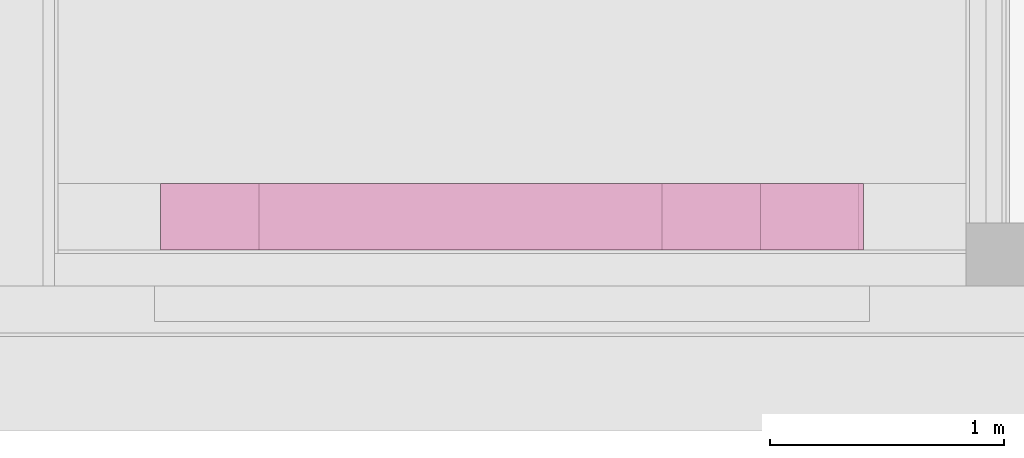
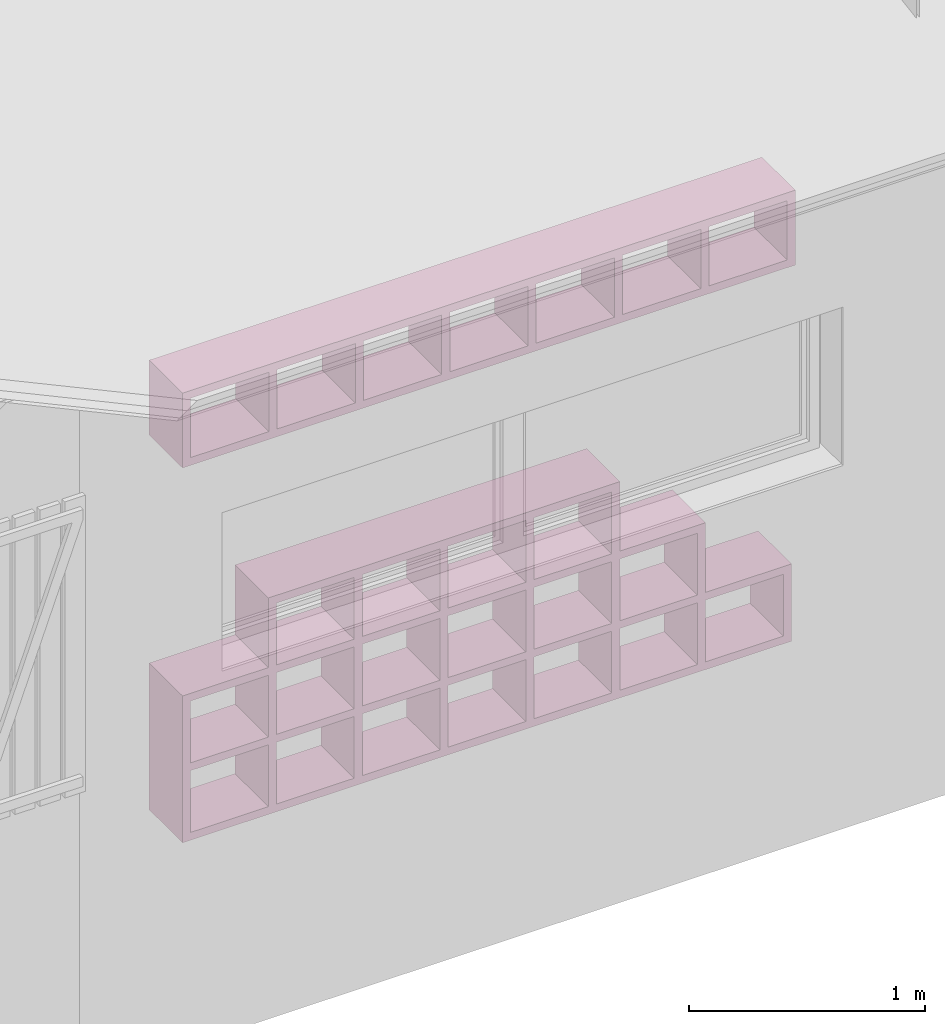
# One storey, part 20 of 24: 2 furnishings.
"""IFC2X3 building model written with IfcOpenShell, lengths in metres."""

import ifcopenshell
import ifcopenshell.guid

model = None  # the IFC model being written
_history = None  # IfcOwnerHistory: only IFC2X3 demands one
_inside = {}  # id of a spatial element -> (the spatial element, [elements in it])
_under = {}  # id of a project, library or spatial element -> (it, [spatial elements below it])
_declared = {}  # id of a project -> (the project, [libraries it declares])
_typed = {}  # id of a type object -> (the type object, [elements of that type])
_made_of = {}  # id of a material, layer set ... -> (it, [elements and type objects made of it])


def new_model(schema):
    """Start an empty IFC model of exactly this schema.

    Asked for "IFC4X3", IfcOpenShell would pick the latest addendum, in which some entities
    have other attributes; the version numbers below select the first issue.
    IFC2X3 requires an IfcOwnerHistory on every rooted entity: one is made here for all.
    """
    global model, _history
    if schema == "IFC4X3":
        model = ifcopenshell.file(schema_version=(4, 3, 0, 0))
    else:
        model = ifcopenshell.file(schema=schema)
    _inside.clear()
    _under.clear()
    _declared.clear()
    _typed.clear()
    _made_of.clear()
    _history = None
    if model.schema == "IFC2X3":
        org = make("IfcOrganization", Name="unknown")
        user = make(
            "IfcPersonAndOrganization",
            ThePerson=make("IfcPerson", FamilyName="unknown"),
            TheOrganization=org,
        )
        app = make(
            "IfcApplication",
            ApplicationDeveloper=org,
            Version="unknown",
            ApplicationFullName="unknown",
            ApplicationIdentifier="unknown",
        )
        _history = make(
            "IfcOwnerHistory",
            OwningUser=user,
            OwningApplication=app,
            ChangeAction="ADDED",
            CreationDate=0,
        )
    return model


def make(cls, **values):
    """One entity of the class cls with the attributes given. An attribute that is None is left unset."""
    return model.create_entity(
        cls, **{name: value for name, value in values.items() if value is not None}
    )


def entity(cls, *values):
    """Any entity or typed value of the class cls, its attributes in the order of the schema. None: left unset."""
    e = model.create_entity(cls)
    for i, value in enumerate(values):
        if value is not None:
            e[i] = value
    return e


def rooted(cls, **values):
    """An entity with a GlobalId (a new one), such as an element, a storey or a relation."""
    return make(cls, GlobalId=ifcopenshell.guid.new(), OwnerHistory=_history, **values)


def si_unit(unit_type, name, prefix=None):
    """IfcSIUnit, for example si_unit("LENGTHUNIT", "METRE", prefix="MILLI")."""
    return make("IfcSIUnit", UnitType=unit_type, Prefix=prefix, Name=name)


def converted_unit(unit_type, name, factor, base, dimensions=None, offset=None):
    """IfcConversionBasedUnit, such as the inch: factor (a typed value) times the base unit."""
    return make(
        "IfcConversionBasedUnit"
        if offset is None
        else "IfcConversionBasedUnitWithOffset",
        ConversionOffset=offset,
        Dimensions=None
        if dimensions is None
        else entity("IfcDimensionalExponents", *dimensions),
        UnitType=unit_type,
        Name=name,
        ConversionFactor=make(
            "IfcMeasureWithUnit", ValueComponent=factor, UnitComponent=base
        ),
    )


def derived_unit(unit_type, elements):
    """IfcDerivedUnit: a product of units, each with its exponent."""
    return make(
        "IfcDerivedUnit",
        Elements=[
            make("IfcDerivedUnitElement", Unit=unit, Exponent=power)
            for unit, power in elements
        ],
        UnitType=unit_type,
    )


def money_unit(currency):
    """IfcMonetaryUnit."""
    return make("IfcMonetaryUnit", Currency=currency)


def assignment(units):
    """IfcUnitAssignment: the units of a project."""
    return None if units is None else make("IfcUnitAssignment", Units=units)


def point(xyz):
    """IfcCartesianPoint."""
    return None if xyz is None else make("IfcCartesianPoint", Coordinates=xyz)


def direction(xyz):
    """IfcDirection."""
    return None if xyz is None else make("IfcDirection", DirectionRatios=xyz)


def frame(location, z_axis=None, x_axis=None):
    """IfcAxis2Placement3D, a coordinate frame: its origin and axes. An axis left out is left unset."""
    return make(
        "IfcAxis2Placement3D",
        Location=point(location),
        Axis=direction(z_axis),
        RefDirection=direction(x_axis),
    )


def origin_with_axes():
    """The frame at (0, 0, 0) with the z axis (0, 0, 1) and the x axis (1, 0, 0) written out."""
    return frame((0.0, 0.0, 0.0), z_axis=(0.0, 0.0, 1.0), x_axis=(1.0, 0.0, 0.0))


def place(relative_to, where):
    """IfcLocalPlacement: puts the frame where relative to a parent placement (None: the world)."""
    return make(
        "IfcLocalPlacement", PlacementRelTo=relative_to, RelativePlacement=where
    )


def context(
    kind, dimensions, precision=None, world=None, true_north=None, identifier=None
):
    """IfcGeometricRepresentationContext, for example the 3D "Model" context."""
    return make(
        "IfcGeometricRepresentationContext",
        ContextIdentifier=identifier,
        ContextType=kind,
        CoordinateSpaceDimension=dimensions,
        Precision=precision,
        WorldCoordinateSystem=world,
        TrueNorth=true_north,
    )


def subcontext(parent, identifier, kind, view, scale=None):
    """IfcGeometricRepresentationSubContext, for example "Body" below "Model"."""
    return make(
        "IfcGeometricRepresentationSubContext",
        ContextIdentifier=identifier,
        ContextType=kind,
        ParentContext=parent,
        TargetScale=scale,
        TargetView=view,
    )


def project(units=None, contexts=None):
    """IfcProject with its units and contexts."""
    return rooted(
        "IfcProject",
        Name="project",
        RepresentationContexts=contexts,
        UnitsInContext=assignment(units),
    )


def spatial(cls, under=None, at=None, **own):
    """A site, building, storey or space (cls), placed at a placement, below another one or the project."""
    s = rooted(cls, ObjectPlacement=at, **own)
    if under is not None:
        _under.setdefault(under.id(), (under, []))[1].append(s)
    return s


def faces_of(points, faces, orient=None, outer=None):
    """IfcFace entities. A face is a list of loops; a loop is a list of indices into points, from 0.

    orient and outer hold one flag for each loop. By default every Orientation is true, the
    first loop of a face is its IfcFaceOuterBound and the others are IfcFaceBound.
    """
    made = []
    for i, loops in enumerate(faces):
        bounds = []
        for j, loop in enumerate(loops):
            is_outer = j == 0 if outer is None else outer[i][j]
            bounds.append(
                make(
                    "IfcFaceOuterBound" if is_outer else "IfcFaceBound",
                    Bound=make("IfcPolyLoop", Polygon=[points[k] for k in loop]),
                    Orientation=True if orient is None else orient[i][j],
                )
            )
        made.append(make("IfcFace", Bounds=bounds))
    return made


def faceted_brep(points, faces, orient=None, outer=None, voids=None):
    """IfcFacetedBrep: a solid bounded by flat faces; with voids (closed shells), ...WithVoids."""
    shared = [point(p) for p in points]
    hull = make("IfcClosedShell", CfsFaces=faces_of(shared, faces, orient, outer))
    if voids is None:
        return make("IfcFacetedBrep", Outer=hull)
    return make(
        "IfcFacetedBrepWithVoids",
        Outer=hull,
        Voids=[
            make(cls, CfsFaces=faces_of(shared, fs, o, b)) for cls, fs, o, b in voids
        ],
    )


def shape(context_of_items, identifier, shape_type, items):
    """IfcShapeRepresentation: the items that make up one representation, for example the "Body"."""
    return make(
        "IfcShapeRepresentation",
        ContextOfItems=context_of_items,
        RepresentationIdentifier=identifier,
        RepresentationType=shape_type,
        Items=items,
    )


def made_of(thing, what):
    """Note that an element or type object is made of a material, layer set ...; save() writes the relation."""
    if what is not None:
        _made_of.setdefault(what.id(), (what, []))[1].append(thing)
    return thing


def type_object(cls, material=None, **own):
    """A type object (cls), such as IfcWallType, which elements share."""
    return made_of(rooted(cls, **own), material)


def element(
    cls,
    number,
    at=None,
    inside=None,
    cuts=None,
    type_object=None,
    material=None,
    context=None,
    identifier="Body",
    shape_type=None,
    held_by="IfcProductDefinitionShape",
    body=None,
    shapes=None,
    **own,
):
    """One element of the class cls, such as IfcWall. Its Tag is "e" and its number.

    at: its placement. inside: the storey or other place that contains it. cuts: it is an
    opening in that element (IfcRelVoidsElement). A single representation is given by context,
    identifier, shape_type and body (its items); several are given by shapes. held_by: the class
    of the entity that holds the representations. save() writes the other relations.
    """
    e = rooted(cls, Tag="e%d" % number, ObjectPlacement=at, **own)
    if body is not None:
        shapes = [shape(context, identifier, shape_type, body)]
    if shapes is not None:
        e.Representation = make(held_by, Representations=shapes)
    if inside is not None:
        _inside.setdefault(inside.id(), (inside, []))[1].append(e)
    if cuts is not None:
        rooted(
            "IfcRelVoidsElement", RelatingBuildingElement=cuts, RelatedOpeningElement=e
        )
    if type_object is not None:
        _typed.setdefault(type_object.id(), (type_object, []))[1].append(e)
    return made_of(e, material)


def aggregate(whole, parts):
    """IfcRelAggregates: a whole, such as a stair, and the parts it consists of."""
    return rooted("IfcRelAggregates", RelatingObject=whole, RelatedObjects=parts)


def save(model, path):
    """Write the relations noted so far, then the file.

    IfcRelAggregates (storeys below a building ...), IfcRelContainedInSpatialStructure (elements
    in a storey), IfcRelDefinesByType, IfcRelAssociatesMaterial and IfcRelDeclares: one each for
    every whole, place, type object, material and project.
    """
    for whole, parts in _under.values():
        aggregate(whole, parts)
    for where, things in _inside.values():
        rooted(
            "IfcRelContainedInSpatialStructure",
            RelatedElements=things,
            RelatingStructure=where,
        )
    for kind, things in _typed.values():
        rooted("IfcRelDefinesByType", RelatedObjects=things, RelatingType=kind)
    for what, things in _made_of.values():
        rooted("IfcRelAssociatesMaterial", RelatedObjects=things, RelatingMaterial=what)
    for by, libraries in _declared.values():
        rooted("IfcRelDeclares", RelatingContext=by, RelatedDefinitions=libraries)
    model.write(path)


model = new_model("IFC2X3")

# Units and contexts
model_context = context("Model", 3, precision=1e-05, world=origin_with_axes(), true_north=direction((0.0, 1.0)))
body_context = subcontext(model_context, "Body", "Model", "MODEL_VIEW")
ifc_project = project(units=[si_unit("LENGTHUNIT", "METRE"), si_unit("AREAUNIT", "SQUARE_METRE"), si_unit("VOLUMEUNIT", "CUBIC_METRE"), converted_unit("PLANEANGLEUNIT", "DEGREE", entity("IfcPlaneAngleMeasure", 0.0174532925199), si_unit("PLANEANGLEUNIT", "RADIAN"), dimensions=[0, 0, 0, 0, 0, 0, 0]), si_unit("SOLIDANGLEUNIT", "STERADIAN"), money_unit("CHF"), converted_unit("TIMEUNIT", "Year", entity("IfcTimeMeasure", 31556926.0), si_unit("TIMEUNIT", "SECOND"), dimensions=[0, 0, 1, 0, 0, 0, 0]), si_unit("MASSUNIT", "GRAM", prefix="KILO"), si_unit("THERMODYNAMICTEMPERATUREUNIT", "DEGREE_CELSIUS"), si_unit("LUMINOUSINTENSITYUNIT", "LUMEN"), si_unit("ENERGYUNIT", "JOULE", prefix="MEGA"), derived_unit("THERMALCONDUCTANCEUNIT", [(si_unit("POWERUNIT", "WATT"), 1), (si_unit("LENGTHUNIT", "METRE"), -1), (si_unit("THERMODYNAMICTEMPERATUREUNIT", "KELVIN"), -1)]), derived_unit("SPECIFICHEATCAPACITYUNIT", [(si_unit("ENERGYUNIT", "JOULE"), 1), (si_unit("MASSUNIT", "GRAM", prefix="KILO"), -1), (si_unit("THERMODYNAMICTEMPERATUREUNIT", "KELVIN"), -1)]), derived_unit("MASSDENSITYUNIT", [(si_unit("MASSUNIT", "GRAM", prefix="KILO"), 1), (si_unit("VOLUMEUNIT", "CUBIC_METRE"), -1)])], contexts=[model_context])

# Site, building, storey
site_placement = place(None, origin_with_axes())
site = spatial("IfcSite", under=ifc_project, at=site_placement, Name="Site", CompositionType="ELEMENT")
building_placement = place(site_placement, origin_with_axes())
building = spatial("IfcBuilding", under=site, at=building_placement, Name="Bâtiment", CompositionType="ELEMENT")
storey_placement = place(building_placement, origin_with_axes())
storey = spatial("IfcBuildingStorey", under=building, at=storey_placement, Name="Rez-de-chaussée", CompositionType="ELEMENT", Elevation=0.0)

# Furnishings
furniture_type = type_object("IfcFurnitureType", Name="Etagère modulable 24", AssemblyPlace="NOTDEFINED")
furnishing_1_placement = place(storey_placement, frame((24.1046417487, 8.1079346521, 2.1), z_axis=(0.0, 0.0, 1.0), x_axis=(1.0, 0.0, 0.0)))
element("IfcFurnishingElement", 1, at=furnishing_1_placement, inside=storey, type_object=furniture_type, Name="MOBILIER-016", context=body_context, shape_type="Brep", body=[
    faceted_brep([(3.0, 0.0, 0.0), (0.0, 0.0, 0.0), (0.0, 0.282307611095, 0.0), (3.0, 0.282307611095, 0.0), (3.0, 0.0, 0.04), (0.0, 0.0, 0.04), (0.0, 0.282307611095, 0.04), (3.0, 0.282307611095, 0.04)], [[[0, 1, 2, 3]], [[1, 0, 4, 5]], [[2, 1, 5, 6]], [[3, 2, 6, 7]], [[0, 3, 7, 4]], [[5, 4, 7, 6]]]),
    faceted_brep([(0.04, 0.0, 0.04), (0.0, 0.0, 0.04), (0.0, 0.282307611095, 0.04), (0.04, 0.282307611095, 0.04), (0.04, 0.0, 0.347382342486), (0.0, 0.0, 0.347382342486), (0.0, 0.282307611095, 0.347382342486), (0.04, 0.282307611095, 0.347382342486)], [[[0, 1, 2, 3]], [[1, 0, 4, 5]], [[2, 1, 5, 6]], [[3, 2, 6, 7]], [[0, 3, 7, 4]], [[5, 4, 7, 6]]]),
    faceted_brep([(0.462857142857, 0.0, 0.04), (0.422857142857, 0.0, 0.04), (0.422857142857, 0.282307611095, 0.04), (0.462857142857, 0.282307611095, 0.04), (0.462857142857, 0.0, 0.347382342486), (0.422857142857, 0.0, 0.347382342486), (0.422857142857, 0.282307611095, 0.347382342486), (0.462857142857, 0.282307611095, 0.347382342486)], [[[0, 1, 2, 3]], [[1, 0, 4, 5]], [[2, 1, 5, 6]], [[3, 2, 6, 7]], [[0, 3, 7, 4]], [[5, 4, 7, 6]]]),
    faceted_brep([(0.885714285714, 0.0, 0.04), (0.845714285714, 0.0, 0.04), (0.845714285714, 0.282307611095, 0.04), (0.885714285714, 0.282307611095, 0.04), (0.885714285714, 0.0, 0.347382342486), (0.845714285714, 0.0, 0.347382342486), (0.845714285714, 0.282307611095, 0.347382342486), (0.885714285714, 0.282307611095, 0.347382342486)], [[[0, 1, 2, 3]], [[1, 0, 4, 5]], [[2, 1, 5, 6]], [[3, 2, 6, 7]], [[0, 3, 7, 4]], [[5, 4, 7, 6]]]),
    faceted_brep([(1.30857142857, 0.0, 0.04), (1.26857142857, 0.0, 0.04), (1.26857142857, 0.282307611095, 0.04), (1.30857142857, 0.282307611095, 0.04), (1.30857142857, 0.0, 0.347382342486), (1.26857142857, 0.0, 0.347382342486), (1.26857142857, 0.282307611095, 0.347382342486), (1.30857142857, 0.282307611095, 0.347382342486)], [[[0, 1, 2, 3]], [[1, 0, 4, 5]], [[2, 1, 5, 6]], [[3, 2, 6, 7]], [[0, 3, 7, 4]], [[5, 4, 7, 6]]]),
    faceted_brep([(1.73142857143, 0.0, 0.04), (1.69142857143, 0.0, 0.04), (1.69142857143, 0.282307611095, 0.04), (1.73142857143, 0.282307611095, 0.04), (1.73142857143, 0.0, 0.347382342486), (1.69142857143, 0.0, 0.347382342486), (1.69142857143, 0.282307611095, 0.347382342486), (1.73142857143, 0.282307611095, 0.347382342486)], [[[0, 1, 2, 3]], [[1, 0, 4, 5]], [[2, 1, 5, 6]], [[3, 2, 6, 7]], [[0, 3, 7, 4]], [[5, 4, 7, 6]]]),
    faceted_brep([(2.15428571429, 0.0, 0.04), (2.11428571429, 0.0, 0.04), (2.11428571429, 0.282307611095, 0.04), (2.15428571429, 0.282307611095, 0.04), (2.15428571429, 0.0, 0.347382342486), (2.11428571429, 0.0, 0.347382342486), (2.11428571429, 0.282307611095, 0.347382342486), (2.15428571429, 0.282307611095, 0.347382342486)], [[[0, 1, 2, 3]], [[1, 0, 4, 5]], [[2, 1, 5, 6]], [[3, 2, 6, 7]], [[0, 3, 7, 4]], [[5, 4, 7, 6]]]),
    faceted_brep([(2.57714285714, 0.0, 0.04), (2.53714285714, 0.0, 0.04), (2.53714285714, 0.282307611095, 0.04), (2.57714285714, 0.282307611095, 0.04), (2.57714285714, 0.0, 0.347382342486), (2.53714285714, 0.0, 0.347382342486), (2.53714285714, 0.282307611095, 0.347382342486), (2.57714285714, 0.282307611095, 0.347382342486)], [[[0, 1, 2, 3]], [[1, 0, 4, 5]], [[2, 1, 5, 6]], [[3, 2, 6, 7]], [[0, 3, 7, 4]], [[5, 4, 7, 6]]]),
    faceted_brep([(3.0, 0.0, 0.04), (2.96, 0.0, 0.04), (2.96, 0.282307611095, 0.04), (3.0, 0.282307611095, 0.04), (3.0, 0.0, 0.347382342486), (2.96, 0.0, 0.347382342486), (2.96, 0.282307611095, 0.347382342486), (3.0, 0.282307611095, 0.347382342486)], [[[0, 1, 2, 3]], [[1, 0, 4, 5]], [[2, 1, 5, 6]], [[3, 2, 6, 7]], [[0, 3, 7, 4]], [[5, 4, 7, 6]]]),
    faceted_brep([(3.0, 0.0, 0.347382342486), (0.0, 0.0, 0.347382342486), (0.0, 0.282307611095, 0.347382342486), (3.0, 0.282307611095, 0.347382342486), (3.0, 0.0, 0.387382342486), (0.0, 0.0, 0.387382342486), (0.0, 0.282307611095, 0.387382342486), (3.0, 0.282307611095, 0.387382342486)], [[[0, 1, 2, 3]], [[1, 0, 4, 5]], [[2, 1, 5, 6]], [[3, 2, 6, 7]], [[0, 3, 7, 4]], [[5, 4, 7, 6]]]),
])
furnishing_2_placement = place(storey_placement, frame((24.1046417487, 8.1079346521, 0.16), z_axis=(0.0, 0.0, 1.0), x_axis=(1.0, 0.0, 0.0)))
element("IfcFurnishingElement", 2, at=furnishing_2_placement, inside=storey, type_object=furniture_type, Name="MOBILIER-016", context=body_context, shape_type="Brep", body=[
    faceted_brep([(2.98130161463, 0.0, 0.0), (0.0, 0.0, 0.0), (0.0, 0.282307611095, 0.0), (2.98130161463, 0.282307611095, 0.0), (2.98130161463, 0.0, 0.04), (0.0, 0.0, 0.04), (0.0, 0.282307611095, 0.04), (2.98130161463, 0.282307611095, 0.04)], [[[0, 1, 2, 3]], [[1, 0, 4, 5]], [[2, 1, 5, 6]], [[3, 2, 6, 7]], [[0, 3, 7, 4]], [[5, 4, 7, 6]]]),
    faceted_brep([(0.04, 0.0, 0.04), (0.0, 0.0, 0.04), (0.0, 0.282307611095, 0.04), (0.04, 0.282307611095, 0.04), (0.04, 0.0, 0.36), (0.0, 0.0, 0.36), (0.0, 0.282307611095, 0.36), (0.04, 0.282307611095, 0.36)], [[[0, 1, 2, 3]], [[1, 0, 4, 5]], [[2, 1, 5, 6]], [[3, 2, 6, 7]], [[0, 3, 7, 4]], [[5, 4, 7, 6]]]),
    faceted_brep([(0.460185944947, 0.0, 0.04), (0.420185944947, 0.0, 0.04), (0.420185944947, 0.282307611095, 0.04), (0.460185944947, 0.282307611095, 0.04), (0.460185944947, 0.0, 0.36), (0.420185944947, 0.0, 0.36), (0.420185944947, 0.282307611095, 0.36), (0.460185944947, 0.282307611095, 0.36)], [[[0, 1, 2, 3]], [[1, 0, 4, 5]], [[2, 1, 5, 6]], [[3, 2, 6, 7]], [[0, 3, 7, 4]], [[5, 4, 7, 6]]]),
    faceted_brep([(0.880371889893, 0.0, 0.04), (0.840371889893, 0.0, 0.04), (0.840371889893, 0.282307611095, 0.04), (0.880371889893, 0.282307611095, 0.04), (0.880371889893, 0.0, 0.36), (0.840371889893, 0.0, 0.36), (0.840371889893, 0.282307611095, 0.36), (0.880371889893, 0.282307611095, 0.36)], [[[0, 1, 2, 3]], [[1, 0, 4, 5]], [[2, 1, 5, 6]], [[3, 2, 6, 7]], [[0, 3, 7, 4]], [[5, 4, 7, 6]]]),
    faceted_brep([(1.30055783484, 0.0, 0.04), (1.26055783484, 0.0, 0.04), (1.26055783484, 0.282307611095, 0.04), (1.30055783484, 0.282307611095, 0.04), (1.30055783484, 0.0, 0.36), (1.26055783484, 0.0, 0.36), (1.26055783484, 0.282307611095, 0.36), (1.30055783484, 0.282307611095, 0.36)], [[[0, 1, 2, 3]], [[1, 0, 4, 5]], [[2, 1, 5, 6]], [[3, 2, 6, 7]], [[0, 3, 7, 4]], [[5, 4, 7, 6]]]),
    faceted_brep([(1.72074377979, 0.0, 0.04), (1.68074377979, 0.0, 0.04), (1.68074377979, 0.282307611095, 0.04), (1.72074377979, 0.282307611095, 0.04), (1.72074377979, 0.0, 0.36), (1.68074377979, 0.0, 0.36), (1.68074377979, 0.282307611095, 0.36), (1.72074377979, 0.282307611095, 0.36)], [[[0, 1, 2, 3]], [[1, 0, 4, 5]], [[2, 1, 5, 6]], [[3, 2, 6, 7]], [[0, 3, 7, 4]], [[5, 4, 7, 6]]]),
    faceted_brep([(2.14092972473, 0.0, 0.04), (2.10092972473, 0.0, 0.04), (2.10092972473, 0.282307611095, 0.04), (2.14092972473, 0.282307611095, 0.04), (2.14092972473, 0.0, 0.36), (2.10092972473, 0.0, 0.36), (2.10092972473, 0.282307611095, 0.36), (2.14092972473, 0.282307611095, 0.36)], [[[0, 1, 2, 3]], [[1, 0, 4, 5]], [[2, 1, 5, 6]], [[3, 2, 6, 7]], [[0, 3, 7, 4]], [[5, 4, 7, 6]]]),
    faceted_brep([(2.56111566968, 0.0, 0.04), (2.52111566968, 0.0, 0.04), (2.52111566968, 0.282307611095, 0.04), (2.56111566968, 0.282307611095, 0.04), (2.56111566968, 0.0, 0.36), (2.52111566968, 0.0, 0.36), (2.52111566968, 0.282307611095, 0.36), (2.56111566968, 0.282307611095, 0.36)], [[[0, 1, 2, 3]], [[1, 0, 4, 5]], [[2, 1, 5, 6]], [[3, 2, 6, 7]], [[0, 3, 7, 4]], [[5, 4, 7, 6]]]),
    faceted_brep([(2.98130161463, 0.0, 0.04), (2.94130161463, 0.0, 0.04), (2.94130161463, 0.282307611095, 0.04), (2.98130161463, 0.282307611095, 0.04), (2.98130161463, 0.0, 0.36), (2.94130161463, 0.0, 0.36), (2.94130161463, 0.282307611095, 0.36), (2.98130161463, 0.282307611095, 0.36)], [[[0, 1, 2, 3]], [[1, 0, 4, 5]], [[2, 1, 5, 6]], [[3, 2, 6, 7]], [[0, 3, 7, 4]], [[5, 4, 7, 6]]]),
    faceted_brep([(2.98130161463, 0.0, 0.36), (0.0, 0.0, 0.36), (0.0, 0.282307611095, 0.36), (2.98130161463, 0.282307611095, 0.36), (2.98130161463, 0.0, 0.4), (0.0, 0.0, 0.4), (0.0, 0.282307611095, 0.4), (2.98130161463, 0.282307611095, 0.4)], [[[0, 1, 2, 3]], [[1, 0, 4, 5]], [[2, 1, 5, 6]], [[3, 2, 6, 7]], [[0, 3, 7, 4]], [[5, 4, 7, 6]]]),
    faceted_brep([(0.0, 0.0, 0.72), (2.56111566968, 0.0, 0.72), (2.56111566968, 0.0, 0.76), (0.0, 0.0, 0.76), (0.0, 0.282307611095, 0.72), (2.56111566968, 0.282307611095, 0.72), (2.56111566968, 0.282307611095, 0.76), (0.0, 0.282307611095, 0.76)], [[[0, 1, 2, 3]], [[0, 4, 5, 1]], [[1, 5, 6, 2]], [[3, 2, 6, 7]], [[4, 0, 3, 7]], [[5, 4, 7, 6]]]),
    faceted_brep([(0.04, 0.0, 0.4), (0.0, 0.0, 0.4), (0.0, 0.282307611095, 0.4), (0.04, 0.282307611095, 0.4), (0.04, 0.0, 0.72), (0.0, 0.0, 0.72), (0.0, 0.282307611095, 0.72), (0.04, 0.282307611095, 0.72)], [[[0, 1, 2, 3]], [[1, 0, 4, 5]], [[2, 1, 5, 6]], [[3, 2, 6, 7]], [[0, 3, 7, 4]], [[5, 4, 7, 6]]]),
    faceted_brep([(0.460185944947, 0.0, 0.4), (0.420185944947, 0.0, 0.4), (0.420185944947, 0.282307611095, 0.4), (0.460185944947, 0.282307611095, 0.4), (0.460185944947, 0.0, 0.72), (0.420185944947, 0.0, 0.72), (0.420185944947, 0.282307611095, 0.72), (0.460185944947, 0.282307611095, 0.72)], [[[0, 1, 2, 3]], [[1, 0, 4, 5]], [[2, 1, 5, 6]], [[3, 2, 6, 7]], [[0, 3, 7, 4]], [[5, 4, 7, 6]]]),
    faceted_brep([(0.880371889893, 0.0, 0.4), (0.840371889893, 0.0, 0.4), (0.840371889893, 0.282307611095, 0.4), (0.880371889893, 0.282307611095, 0.4), (0.880371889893, 0.0, 0.72), (0.840371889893, 0.0, 0.72), (0.840371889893, 0.282307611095, 0.72), (0.880371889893, 0.282307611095, 0.72)], [[[0, 1, 2, 3]], [[1, 0, 4, 5]], [[2, 1, 5, 6]], [[3, 2, 6, 7]], [[0, 3, 7, 4]], [[5, 4, 7, 6]]]),
    faceted_brep([(1.30055783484, 0.0, 0.4), (1.26055783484, 0.0, 0.4), (1.26055783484, 0.282307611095, 0.4), (1.30055783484, 0.282307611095, 0.4), (1.30055783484, 0.0, 0.72), (1.26055783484, 0.0, 0.72), (1.26055783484, 0.282307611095, 0.72), (1.30055783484, 0.282307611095, 0.72)], [[[0, 1, 2, 3]], [[1, 0, 4, 5]], [[2, 1, 5, 6]], [[3, 2, 6, 7]], [[0, 3, 7, 4]], [[5, 4, 7, 6]]]),
    faceted_brep([(1.72074377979, 0.0, 0.4), (1.68074377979, 0.0, 0.4), (1.68074377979, 0.282307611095, 0.4), (1.72074377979, 0.282307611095, 0.4), (1.72074377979, 0.0, 0.72), (1.68074377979, 0.0, 0.72), (1.68074377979, 0.282307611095, 0.72), (1.72074377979, 0.282307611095, 0.72)], [[[0, 1, 2, 3]], [[1, 0, 4, 5]], [[2, 1, 5, 6]], [[3, 2, 6, 7]], [[0, 3, 7, 4]], [[5, 4, 7, 6]]]),
    faceted_brep([(2.14092972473, 0.0, 0.4), (2.10092972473, 0.0, 0.4), (2.10092972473, 0.282307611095, 0.4), (2.14092972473, 0.282307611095, 0.4), (2.14092972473, 0.0, 0.72), (2.10092972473, 0.0, 0.72), (2.10092972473, 0.282307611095, 0.72), (2.14092972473, 0.282307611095, 0.72)], [[[0, 1, 2, 3]], [[1, 0, 4, 5]], [[2, 1, 5, 6]], [[3, 2, 6, 7]], [[0, 3, 7, 4]], [[5, 4, 7, 6]]]),
    faceted_brep([(2.56111566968, 0.0, 0.4), (2.52111566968, 0.0, 0.4), (2.52111566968, 0.282307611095, 0.4), (2.56111566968, 0.282307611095, 0.4), (2.56111566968, 0.0, 0.72), (2.52111566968, 0.0, 0.72), (2.52111566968, 0.282307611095, 0.72), (2.56111566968, 0.282307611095, 0.72)], [[[0, 1, 2, 3]], [[1, 0, 4, 5]], [[2, 1, 5, 6]], [[3, 2, 6, 7]], [[0, 3, 7, 4]], [[5, 4, 7, 6]]]),
    faceted_brep([(0.420185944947, 0.0, 1.08), (2.14092972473, 0.0, 1.08), (2.14092972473, 0.0, 1.12), (0.420185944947, 0.0, 1.12), (0.420185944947, 0.282307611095, 1.08), (2.14092972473, 0.282307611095, 1.08), (2.14092972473, 0.282307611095, 1.12), (0.420185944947, 0.282307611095, 1.12)], [[[0, 1, 2, 3]], [[0, 4, 5, 1]], [[1, 5, 6, 2]], [[3, 2, 6, 7]], [[4, 0, 3, 7]], [[5, 4, 7, 6]]]),
    faceted_brep([(0.460185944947, 0.0, 0.76), (0.420185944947, 0.0, 0.76), (0.420185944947, 0.282307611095, 0.76), (0.460185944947, 0.282307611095, 0.76), (0.460185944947, 0.0, 1.08), (0.420185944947, 0.0, 1.08), (0.420185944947, 0.282307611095, 1.08), (0.460185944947, 0.282307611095, 1.08)], [[[0, 1, 2, 3]], [[1, 0, 4, 5]], [[2, 1, 5, 6]], [[3, 2, 6, 7]], [[0, 3, 7, 4]], [[5, 4, 7, 6]]]),
    faceted_brep([(0.880371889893, 0.0, 0.76), (0.840371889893, 0.0, 0.76), (0.840371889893, 0.282307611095, 0.76), (0.880371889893, 0.282307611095, 0.76), (0.880371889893, 0.0, 1.08), (0.840371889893, 0.0, 1.08), (0.840371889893, 0.282307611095, 1.08), (0.880371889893, 0.282307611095, 1.08)], [[[0, 1, 2, 3]], [[1, 0, 4, 5]], [[2, 1, 5, 6]], [[3, 2, 6, 7]], [[0, 3, 7, 4]], [[5, 4, 7, 6]]]),
    faceted_brep([(1.30055783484, 0.0, 0.76), (1.26055783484, 0.0, 0.76), (1.26055783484, 0.282307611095, 0.76), (1.30055783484, 0.282307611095, 0.76), (1.30055783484, 0.0, 1.08), (1.26055783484, 0.0, 1.08), (1.26055783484, 0.282307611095, 1.08), (1.30055783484, 0.282307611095, 1.08)], [[[0, 1, 2, 3]], [[1, 0, 4, 5]], [[2, 1, 5, 6]], [[3, 2, 6, 7]], [[0, 3, 7, 4]], [[5, 4, 7, 6]]]),
    faceted_brep([(1.72074377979, 0.0, 0.76), (1.68074377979, 0.0, 0.76), (1.68074377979, 0.282307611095, 0.76), (1.72074377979, 0.282307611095, 0.76), (1.72074377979, 0.0, 1.08), (1.68074377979, 0.0, 1.08), (1.68074377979, 0.282307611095, 1.08), (1.72074377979, 0.282307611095, 1.08)], [[[0, 1, 2, 3]], [[1, 0, 4, 5]], [[2, 1, 5, 6]], [[3, 2, 6, 7]], [[0, 3, 7, 4]], [[5, 4, 7, 6]]]),
    faceted_brep([(2.14092972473, 0.0, 0.76), (2.10092972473, 0.0, 0.76), (2.10092972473, 0.282307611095, 0.76), (2.14092972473, 0.282307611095, 0.76), (2.14092972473, 0.0, 1.08), (2.10092972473, 0.0, 1.08), (2.10092972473, 0.282307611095, 1.08), (2.14092972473, 0.282307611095, 1.08)], [[[0, 1, 2, 3]], [[1, 0, 4, 5]], [[2, 1, 5, 6]], [[3, 2, 6, 7]], [[0, 3, 7, 4]], [[5, 4, 7, 6]]]),
])

save(model, "model.ifc")
